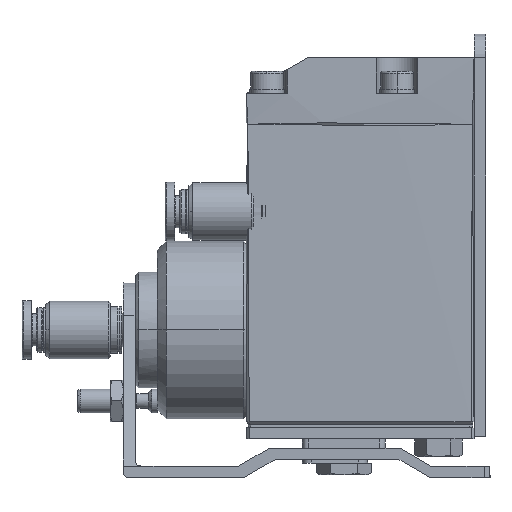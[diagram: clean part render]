
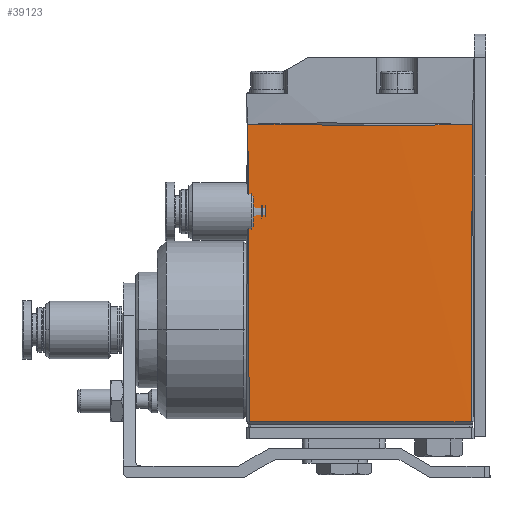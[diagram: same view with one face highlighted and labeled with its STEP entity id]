
A CAD part, left-side view. The second image highlights one B-rep face of the part: STEP entity #39123.
In plain terms, the highlighted planar face has unit normal (-1, 0, 0).
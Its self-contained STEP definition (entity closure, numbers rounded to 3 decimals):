
#1004 = VERTEX_POINT ( 'NONE', #49218 ) ;
#1772 = EDGE_LOOP ( 'NONE', ( #44080, #23632, #27819, #1826 ) ) ;
#1826 = ORIENTED_EDGE ( 'NONE', *, *, #45841, .F. ) ;
#4346 = EDGE_CURVE ( 'NONE', #31480, #24276, #5051, .T. ) ;
#4626 = CARTESIAN_POINT ( 'NONE',  ( 0., -3.25, -4.5 ) ) ;
#5051 = LINE ( 'NONE', #42132, #37102 ) ;
#5595 = CARTESIAN_POINT ( 'NONE',  ( 0., 0.5, 0.5 ) ) ;
#6989 = CARTESIAN_POINT ( 'NONE',  ( 0., 19.25, 0.5 ) ) ;
#8321 = DIRECTION ( 'NONE',  ( 0., 0., 1. ) ) ;
#8584 = DIRECTION ( 'NONE',  ( 0., 0., 1. ) ) ;
#9190 = VECTOR ( 'NONE', #8321, 1000. ) ;
#10945 = VECTOR ( 'NONE', #33334, 1000. ) ;
#15169 = DIRECTION ( 'NONE',  ( 0., 0., -1. ) ) ;
#16678 = EDGE_CURVE ( 'NONE', #1004, #31480, #36854, .T. ) ;
#19545 = LINE ( 'NONE', #23755, #9190 ) ;
#23632 = ORIENTED_EDGE ( 'NONE', *, *, #16678, .T. ) ;
#23755 = CARTESIAN_POINT ( 'NONE',  ( 0., 0.5, 25.5 ) ) ;
#24276 = VERTEX_POINT ( 'NONE', #48637 ) ;
#26314 = DIRECTION ( 'NONE',  ( 0., 1., 0. ) ) ;
#27819 = ORIENTED_EDGE ( 'NONE', *, *, #4346, .T. ) ;
#29629 = CARTESIAN_POINT ( 'NONE',  ( 0., 19.25, 50.5 ) ) ;
#29856 = AXIS2_PLACEMENT_3D ( 'NONE', #4626, #31729, #8584 ) ;
#31088 = EDGE_CURVE ( 'NONE', #35138, #1004, #19545, .T. ) ;
#31480 = VERTEX_POINT ( 'NONE', #38935 ) ;
#31573 = PLANE ( 'NONE',  #29856 ) ;
#31729 = DIRECTION ( 'NONE',  ( -1., 0., 0. ) ) ;
#33334 = DIRECTION ( 'NONE',  ( 0., 1., 0. ) ) ;
#33621 = FACE_OUTER_BOUND ( 'NONE', #1772, .T. ) ;
#35138 = VERTEX_POINT ( 'NONE', #5595 ) ;
#36097 = VECTOR ( 'NONE', #26314, 1000. ) ;
#36854 = LINE ( 'NONE', #29629, #10945 ) ;
#37102 = VECTOR ( 'NONE', #15169, 1000. ) ;
#38935 = CARTESIAN_POINT ( 'NONE',  ( 0.244, 38.222, 50.778 ) ) ;
#39123 = ADVANCED_FACE ( 'NONE', ( #33621 ), #31573, .T. ) ;
#42132 = CARTESIAN_POINT ( 'NONE',  ( 0., 38., 25.5 ) ) ;
#44080 = ORIENTED_EDGE ( 'NONE', *, *, #31088, .T. ) ;
#45841 = EDGE_CURVE ( 'NONE', #35138, #24276, #46534, .T. ) ;
#46534 = LINE ( 'NONE', #6989, #36097 ) ;
#48637 = CARTESIAN_POINT ( 'NONE',  ( 0., 38., 0.5 ) ) ;
#49218 = CARTESIAN_POINT ( 'NONE',  ( 0.172, 0.278, 50.778 ) ) ;
